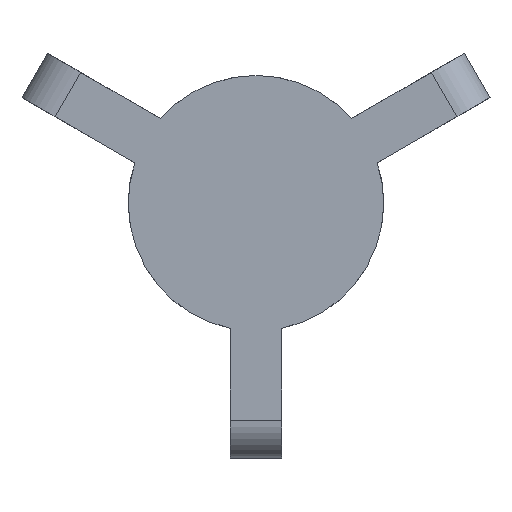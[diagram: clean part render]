
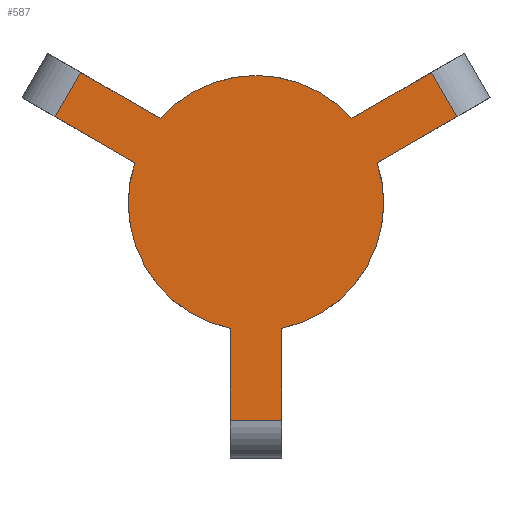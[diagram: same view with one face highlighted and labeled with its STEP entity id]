
A CAD part, front view. The second image highlights one B-rep face of the part: STEP entity #587.
In plain terms, the highlighted planar face has unit normal (0, -1, 0).
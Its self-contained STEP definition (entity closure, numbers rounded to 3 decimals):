
#5 = DIRECTION ( 'NONE',  ( -0.5, 0., -0.866 ) ) ;
#17 = CARTESIAN_POINT ( 'NONE',  ( -29.445, 0., 17. ) ) ;
#56 = VERTEX_POINT ( 'NONE', #1031 ) ;
#73 = VERTEX_POINT ( 'NONE', #224 ) ;
#83 = CARTESIAN_POINT ( 'NONE',  ( 18.971, 0., 6.334 ) ) ;
#95 = CARTESIAN_POINT ( 'NONE',  ( 4., 0., -34. ) ) ;
#103 = EDGE_CURVE ( 'NONE', #393, #477, #216, .T. ) ;
#105 = VERTEX_POINT ( 'NONE', #468 ) ;
#118 = CARTESIAN_POINT ( 'NONE',  ( 0., 0., -34. ) ) ;
#119 = DIRECTION ( 'NONE',  ( 1., 0., 0. ) ) ;
#124 = VECTOR ( 'NONE', #662, 1000. ) ;
#127 = ORIENTED_EDGE ( 'NONE', *, *, #160, .F. ) ;
#136 = CARTESIAN_POINT ( 'NONE',  ( -14.971, 0., 13.262 ) ) ;
#155 = DIRECTION ( 'NONE',  ( -0.5, 0., 0.866 ) ) ;
#158 = CARTESIAN_POINT ( 'NONE',  ( 32.641, 0., 23.464 ) ) ;
#160 = EDGE_CURVE ( 'NONE', #1002, #289, #175, .T. ) ;
#161 = DIRECTION ( 'NONE',  ( 0.866, 0., 0.5 ) ) ;
#163 = CARTESIAN_POINT ( 'NONE',  ( 31.445, 0., 13.536 ) ) ;
#165 = CARTESIAN_POINT ( 'NONE',  ( -36.641, 0., 16.536 ) ) ;
#169 = CARTESIAN_POINT ( 'NONE',  ( 29.445, 0., 17. ) ) ;
#172 = AXIS2_PLACEMENT_3D ( 'NONE', #954, #956, #957 ) ;
#175 = LINE ( 'NONE', #995, #124 ) ;
#189 = VECTOR ( 'NONE', #1065, 1000. ) ;
#191 = ORIENTED_EDGE ( 'NONE', *, *, #317, .T. ) ;
#200 = DIRECTION ( 'NONE',  ( 0., 1., 0. ) ) ;
#209 = ORIENTED_EDGE ( 'NONE', *, *, #986, .F. ) ;
#216 = LINE ( 'NONE', #165, #189 ) ;
#224 = CARTESIAN_POINT ( 'NONE',  ( 14.971, 0., 13.262 ) ) ;
#228 = CIRCLE ( 'NONE', #172, 20. ) ;
#229 = EDGE_CURVE ( 'NONE', #56, #477, #602, .T. ) ;
#235 = ORIENTED_EDGE ( 'NONE', *, *, #939, .F. ) ;
#258 = VERTEX_POINT ( 'NONE', #83 ) ;
#268 = ORIENTED_EDGE ( 'NONE', *, *, #622, .F. ) ;
#279 = EDGE_CURVE ( 'NONE', #408, #289, #884, .T. ) ;
#286 = AXIS2_PLACEMENT_3D ( 'NONE', #805, #795, #794 ) ;
#289 = VERTEX_POINT ( 'NONE', #95 ) ;
#293 = VECTOR ( 'NONE', #530, 1000. ) ;
#302 = VERTEX_POINT ( 'NONE', #136 ) ;
#312 = ORIENTED_EDGE ( 'NONE', *, *, #229, .T. ) ;
#314 = VERTEX_POINT ( 'NONE', #163 ) ;
#317 = EDGE_CURVE ( 'NONE', #314, #105, #1087, .T. ) ;
#354 = ORIENTED_EDGE ( 'NONE', *, *, #422, .F. ) ;
#393 = VERTEX_POINT ( 'NONE', #481 ) ;
#398 = ORIENTED_EDGE ( 'NONE', *, *, #1032, .F. ) ;
#408 = VERTEX_POINT ( 'NONE', #503 ) ;
#418 = LINE ( 'NONE', #485, #293 ) ;
#421 = CARTESIAN_POINT ( 'NONE',  ( 0., 0., 0. ) ) ;
#422 = EDGE_CURVE ( 'NONE', #408, #527, #418, .T. ) ;
#450 = CIRCLE ( 'NONE', #286, 20. ) ;
#452 = DIRECTION ( 'NONE',  ( 0., 0., 1. ) ) ;
#457 = ORIENTED_EDGE ( 'NONE', *, *, #103, .F. ) ;
#459 = ORIENTED_EDGE ( 'NONE', *, *, #893, .F. ) ;
#468 = CARTESIAN_POINT ( 'NONE',  ( 27.445, 0., 20.464 ) ) ;
#477 = VERTEX_POINT ( 'NONE', #545 ) ;
#481 = CARTESIAN_POINT ( 'NONE',  ( -18.971, 0., 6.334 ) ) ;
#485 = CARTESIAN_POINT ( 'NONE',  ( -4., 0., -19.596 ) ) ;
#502 = VECTOR ( 'NONE', #915, 1000. ) ;
#503 = CARTESIAN_POINT ( 'NONE',  ( -4., 0., -34. ) ) ;
#519 = LINE ( 'NONE', #965, #502 ) ;
#527 = VERTEX_POINT ( 'NONE', #605 ) ;
#530 = DIRECTION ( 'NONE',  ( 0., 0., 1. ) ) ;
#533 = FACE_OUTER_BOUND ( 'NONE', #789, .T. ) ;
#545 = CARTESIAN_POINT ( 'NONE',  ( -31.445, 0., 13.536 ) ) ;
#547 = CIRCLE ( 'NONE', #629, 20. ) ;
#560 = VECTOR ( 'NONE', #879, 1000. ) ;
#569 = AXIS2_PLACEMENT_3D ( 'NONE', #722, #689, #690 ) ;
#587 = ADVANCED_FACE ( 'NONE', ( #533 ), #682, .F. ) ;
#601 = LINE ( 'NONE', #1018, #560 ) ;
#602 = LINE ( 'NONE', #17, #679 ) ;
#605 = CARTESIAN_POINT ( 'NONE',  ( -4., 0., -19.596 ) ) ;
#611 = ORIENTED_EDGE ( 'NONE', *, *, #778, .F. ) ;
#622 = EDGE_CURVE ( 'NONE', #982, #73, #547, .T. ) ;
#629 = AXIS2_PLACEMENT_3D ( 'NONE', #711, #713, #715 ) ;
#662 = DIRECTION ( 'NONE',  ( 0., 0., -1. ) ) ;
#679 = VECTOR ( 'NONE', #5, 1000. ) ;
#682 = PLANE ( 'NONE',  #569 ) ;
#689 = DIRECTION ( 'NONE',  ( 0., 1., 0. ) ) ;
#690 = DIRECTION ( 'NONE',  ( 0., 0., 1. ) ) ;
#692 = VECTOR ( 'NONE', #161, 1000. ) ;
#711 = CARTESIAN_POINT ( 'NONE',  ( 0., 0., 0. ) ) ;
#713 = DIRECTION ( 'NONE',  ( 0., 1., 0. ) ) ;
#715 = DIRECTION ( 'NONE',  ( 0., 0., 1. ) ) ;
#722 = CARTESIAN_POINT ( 'NONE',  ( 0., 0., 0. ) ) ;
#726 = CIRCLE ( 'NONE', #796, 20. ) ;
#778 = EDGE_CURVE ( 'NONE', #302, #982, #228, .T. ) ;
#789 = EDGE_LOOP ( 'NONE', ( #235, #354, #846, #127, #398, #1036, #191, #459, #268, #611, #209, #312, #457 ) ) ;
#794 = DIRECTION ( 'NONE',  ( 0., 0., 1. ) ) ;
#795 = DIRECTION ( 'NONE',  ( 0., 1., 0. ) ) ;
#796 = AXIS2_PLACEMENT_3D ( 'NONE', #421, #200, #452 ) ;
#805 = CARTESIAN_POINT ( 'NONE',  ( 0., 0., 0. ) ) ;
#811 = LINE ( 'NONE', #158, #692 ) ;
#846 = ORIENTED_EDGE ( 'NONE', *, *, #279, .T. ) ;
#879 = DIRECTION ( 'NONE',  ( -0.866, 0., -0.5 ) ) ;
#884 = LINE ( 'NONE', #118, #933 ) ;
#893 = EDGE_CURVE ( 'NONE', #73, #105, #811, .T. ) ;
#915 = DIRECTION ( 'NONE',  ( 0.866, 0., -0.5 ) ) ;
#927 = CARTESIAN_POINT ( 'NONE',  ( 4., 0., -19.596 ) ) ;
#933 = VECTOR ( 'NONE', #119, 1000. ) ;
#939 = EDGE_CURVE ( 'NONE', #527, #393, #726, .T. ) ;
#954 = CARTESIAN_POINT ( 'NONE',  ( 0., 0., 0. ) ) ;
#956 = DIRECTION ( 'NONE',  ( 0., 1., 0. ) ) ;
#957 = DIRECTION ( 'NONE',  ( 0., 0., 1. ) ) ;
#961 = EDGE_CURVE ( 'NONE', #314, #258, #601, .T. ) ;
#965 = CARTESIAN_POINT ( 'NONE',  ( -14.971, 0., 13.262 ) ) ;
#982 = VERTEX_POINT ( 'NONE', #1016 ) ;
#986 = EDGE_CURVE ( 'NONE', #56, #302, #519, .T. ) ;
#995 = CARTESIAN_POINT ( 'NONE',  ( 4., 0., -40. ) ) ;
#1002 = VERTEX_POINT ( 'NONE', #927 ) ;
#1016 = CARTESIAN_POINT ( 'NONE',  ( 0., 0., 20. ) ) ;
#1018 = CARTESIAN_POINT ( 'NONE',  ( 18.971, 0., 6.334 ) ) ;
#1031 = CARTESIAN_POINT ( 'NONE',  ( -27.445, 0., 20.464 ) ) ;
#1032 = EDGE_CURVE ( 'NONE', #258, #1002, #450, .T. ) ;
#1036 = ORIENTED_EDGE ( 'NONE', *, *, #961, .F. ) ;
#1065 = DIRECTION ( 'NONE',  ( -0.866, 0., 0.5 ) ) ;
#1072 = VECTOR ( 'NONE', #155, 1000. ) ;
#1087 = LINE ( 'NONE', #169, #1072 ) ;
